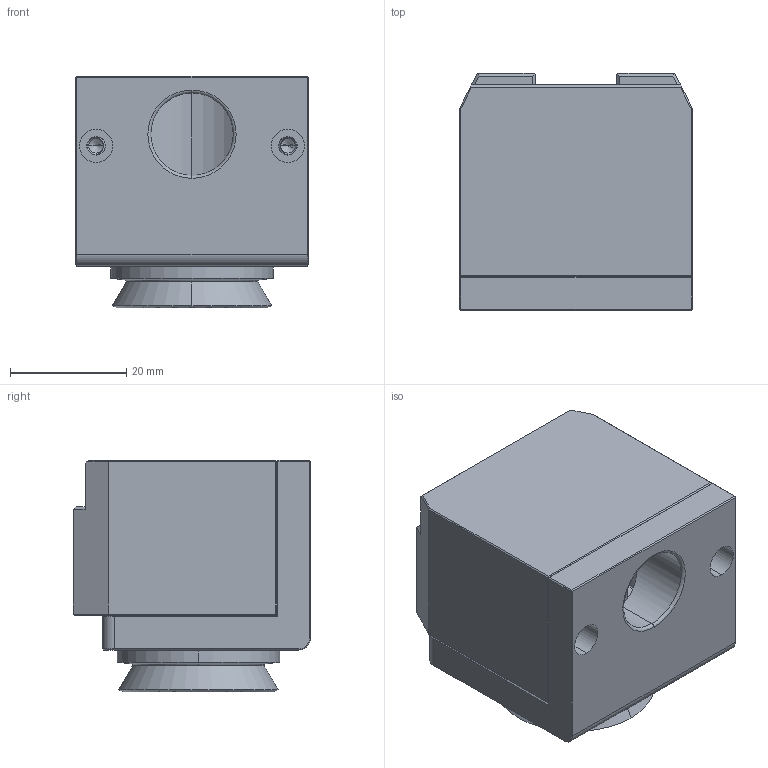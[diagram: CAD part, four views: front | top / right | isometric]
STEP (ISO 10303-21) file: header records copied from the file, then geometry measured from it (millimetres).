
FILE_DESCRIPTION (( 'STEP AP203' ), '1' );
FILE_NAME ('QCSM-08强电模块机器人侧.STEP', '2023-12-27T09:04:54', ( '微软用户' ), ( '微软中国' ), 'SwSTEP 2.0', 'SolidWorks 2018', '' );
FILE_SCHEMA (( 'CONFIG_CONTROL_DESIGN' ));
Products named in the file (1): QCSM-08强电模块机器人侧
Bounding box: 40 x 40.8 x 39.9 mm (x, y, z)
Surface area: 18052 mm2 (no closed solid volume)
Topology: 0 solids, 59 shells, 2033 faces, 5095 edges, 3268 vertices
Faces by surface type: plane 1037, bspline 393, cylinder 389, cone 188, torus 26
Entity records: 82130 total; most frequent: CARTESIAN_POINT 40377, ORIENTED_EDGE 9888, DIRECTION 6203, EDGE_CURVE 5071, VERTEX_POINT 3268, B_SPLINE_CURVE_WITH_KNOTS 2634, AXIS2_PLACEMENT_3D 2365, EDGE_LOOP 2234
